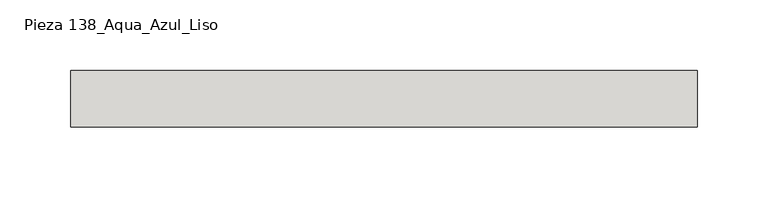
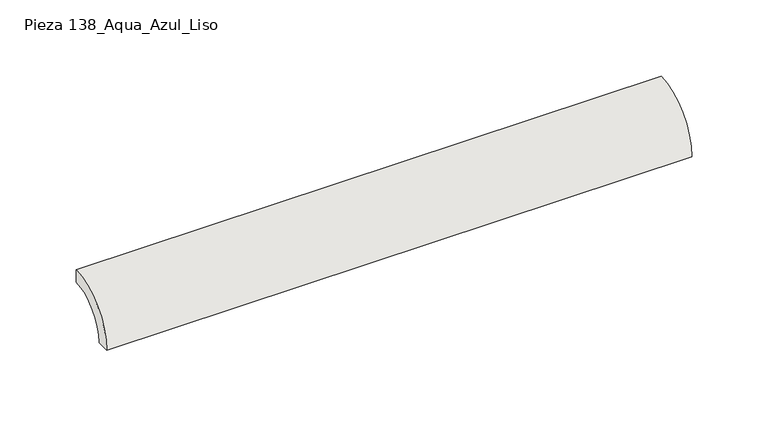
"""IFC4 building model written with IfcOpenShell, lengths in millimetres: slab geometry, ROSA GRES_138 : Pieza 138_Aqua_Azul_Liso."""

from ifc_helpers import new_model, si_unit, point, frame, frame_2d, origin, origin_2d, place, context, project, spatial, polyline, circle_curve, trimmed, segment, composite_curve, outline, extrude, source, transform, mapped, element, save


def pieza_138_aqua_azul_liso_3c2ccfcb(model_context):
    return source(origin(), model_context, "Body", "SweptSolid", [
        extrude(outline(composite_curve([segment(polyline([(0.0, 40.0), (0.0, 30.0265886)]), True, "CONTINUOUS"), segment(trimmed(circle_curve(frame_2d((-0.0044453, 0.0044453)), 30.0221435), [point((0.0, 30.0265886))], [point((-30.0265886, 0.0))], True, "CARTESIAN"), True, "CONTINUOUS"), segment(polyline([(-30.0265886, 0.0), (-40.0, 0.0)]), True, "CONTINUOUS"), segment(trimmed(circle_curve(origin_2d(), 40.0), [point((-40.0, 0.0))], [point((0.0, 40.0))], False, "CARTESIAN"), True, "CONTINUOUS")], self_intersect=False)), frame((0.0, 0.0, 0.0), z_axis=(1.0, 0.0, 0.0), x_axis=(0.0, 1.0, 0.0)), (0.0, 0.0, 1.0), 442.8918845),
    ])


if __name__ == "__main__":
    model = new_model("IFC4")
    model_context = context("Model", 3, world=origin())
    ifc_project = project(units=[si_unit("LENGTHUNIT", "METRE", prefix="MILLI")], contexts=[model_context])
    site = spatial("IfcSite", under=ifc_project)
    building = spatial("IfcBuilding", under=site)
    placement = place(None, origin())
    pieza_138_aqua_azul_liso_shape = pieza_138_aqua_azul_liso_3c2ccfcb(model_context)
    element("IfcSlab", 1, ObjectType="ROSA GRES_138 : Pieza 138_Aqua_Azul_Liso", at=placement, inside=building, context=model_context, shape_type="MappedRepresentation", body=[
        mapped(pieza_138_aqua_azul_liso_shape, transform((0.0, 0.0, 0.0), x_axis=(1.0, 0.0, 0.0), y_axis=(0.0, 1.0, 0.0), z_axis=(0.0, 0.0, 1.0))),
    ])
    save(model, "model.ifc")
